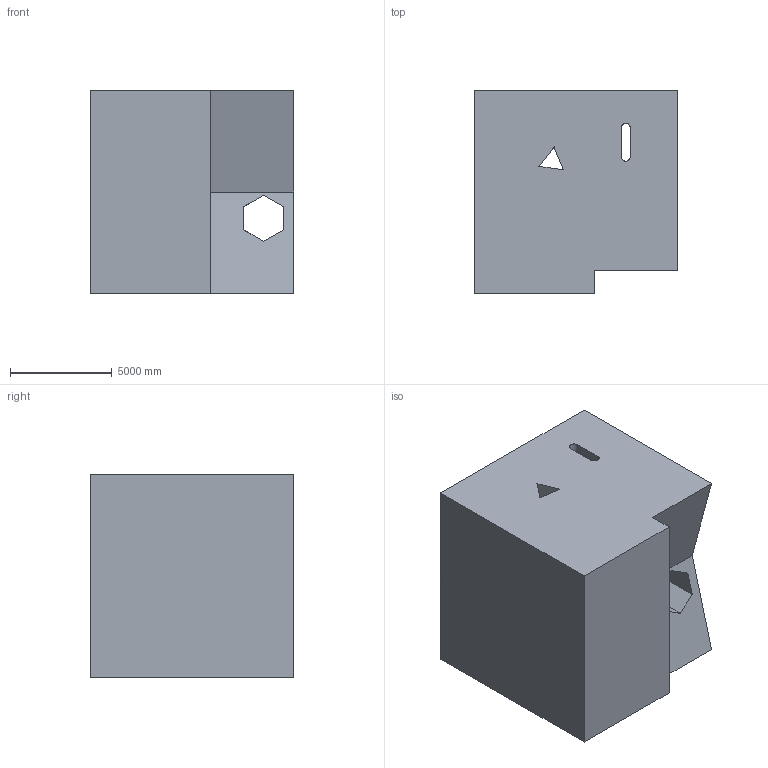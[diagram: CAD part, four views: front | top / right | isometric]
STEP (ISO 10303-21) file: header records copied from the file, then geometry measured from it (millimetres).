
FILE_DESCRIPTION (( 'STEP AP203' ), '1' );
FILE_NAME ('142.STEP', '2022-09-06T13:23:17', ( 'user' ), ( '' ), 'SwSTEP 2.0', 'SolidWorks 2021', '' );
FILE_SCHEMA (( 'CONFIG_CONTROL_DESIGN' ));
Length unit declared in the file: centimetre
Products named in the file (1): 142
Bounding box: 10000 x 10000 x 10000 mm (x, y, z)
Volume: 850631523044.1 mm3; surface area: 735398535.2 mm2
Topology: 1 solids, 1 shells, 28 faces, 84 edges, 56 vertices
Faces by surface type: plane 26, cylinder 2
Entity records: 1025 total; most frequent: CARTESIAN_POINT 181, ORIENTED_EDGE 168, DIRECTION 142, EDGE_CURVE 84, VECTOR 76, LINE 76, VERTEX_POINT 56, EDGE_LOOP 34
